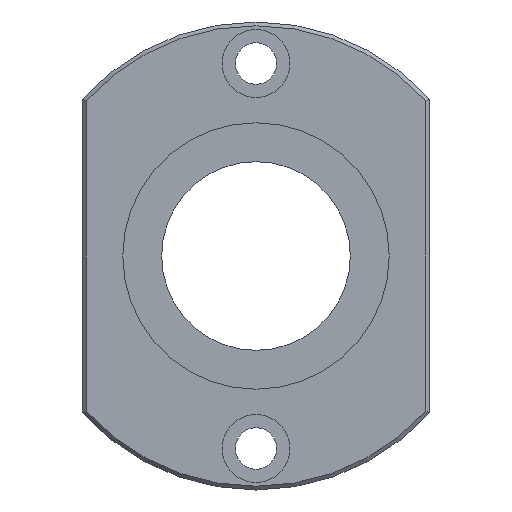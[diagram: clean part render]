
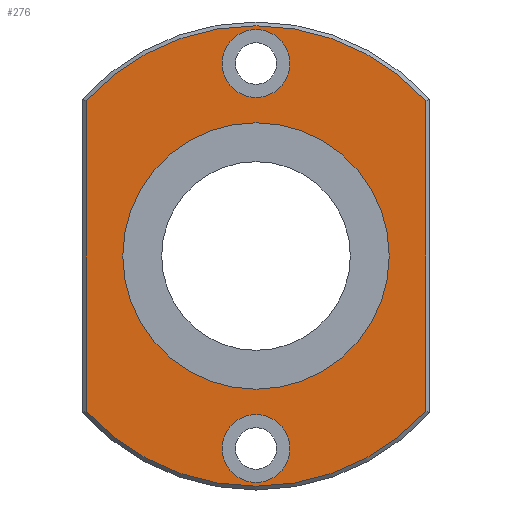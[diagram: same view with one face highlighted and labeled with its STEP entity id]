
A CAD part, left-side view. The second image highlights one B-rep face of the part: STEP entity #276.
In plain terms, the highlighted planar face has unit normal (-1, 0, 0).
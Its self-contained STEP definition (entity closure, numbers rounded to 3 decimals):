
#59=CARTESIAN_POINT('',(0.,22.5,-20.591));
#60=VERTEX_POINT('',#59);
#68=CARTESIAN_POINT('',(0.,22.5,20.591));
#69=VERTEX_POINT('',#68);
#70=CARTESIAN_POINT('',(0.,22.5,-20.591));
#71=DIRECTION('',(0.0,0.0,1.0));
#72=VECTOR('',#71,41.183);
#73=LINE('',#70,#72);
#74=EDGE_CURVE('',#60,#69,#73,.T.);
#101=CARTESIAN_POINT('',(0.,-22.5,20.591));
#102=VERTEX_POINT('',#101);
#103=CARTESIAN_POINT('',(0.,0.0,0.0));
#104=DIRECTION('',(1.0,0.0,0.0));
#105=DIRECTION('',(0.0,0.0,1.0));
#106=AXIS2_PLACEMENT_3D('',#103,#104,#105);
#107=CIRCLE('',#106,30.5);
#108=EDGE_CURVE('',#69,#102,#107,.T.);
#134=CARTESIAN_POINT('',(0.,-22.5,-20.591));
#135=VERTEX_POINT('',#134);
#136=CARTESIAN_POINT('',(0.,-22.5,20.591));
#137=DIRECTION('',(0.0,0.0,-1.0));
#138=VECTOR('',#137,41.183);
#139=LINE('',#136,#138);
#140=EDGE_CURVE('',#102,#135,#139,.T.);
#165=CARTESIAN_POINT('',(0.,0.0,0.0));
#166=DIRECTION('',(1.0,0.0,0.0));
#167=DIRECTION('',(0.0,0.0,-1.0));
#168=AXIS2_PLACEMENT_3D('',#165,#166,#167);
#169=CIRCLE('',#168,30.5);
#170=EDGE_CURVE('',#135,#60,#169,.T.);
#232=CARTESIAN_POINT('',(0.,0.0,18.825));
#233=DIRECTION('',(-1.0,0.0,0.0));
#234=DIRECTION('',(0.0,0.0,1.0));
#235=AXIS2_PLACEMENT_3D('',#232,#233,#234);
#236=PLANE('',#235);
#237=ORIENTED_EDGE('',*,*,#74,.F.);
#238=ORIENTED_EDGE('',*,*,#170,.F.);
#239=ORIENTED_EDGE('',*,*,#140,.F.);
#240=ORIENTED_EDGE('',*,*,#108,.F.);
#241=EDGE_LOOP('',(#237,#238,#239,#240));
#242=FACE_OUTER_BOUND('',#241,.T.);
#243=CARTESIAN_POINT('',(0.,0.0,17.65));
#244=VERTEX_POINT('',#243);
#245=CARTESIAN_POINT('',(0.,0.0,0.0));
#246=DIRECTION('',(-1.0,0.0,0.0));
#247=DIRECTION('',(0.0,0.0,1.0));
#248=AXIS2_PLACEMENT_3D('',#245,#246,#247);
#249=CIRCLE('',#248,17.65);
#250=EDGE_CURVE('',#244,#244,#249,.T.);
#251=ORIENTED_EDGE('',*,*,#250,.F.);
#252=EDGE_LOOP('',(#251));
#253=FACE_BOUND('',#252,.T.);
#254=CARTESIAN_POINT('',(0.0,4.5,-25.5));
#255=VERTEX_POINT('',#254);
#256=CARTESIAN_POINT('',(0.,0.,-25.5));
#257=DIRECTION('',(1.0,0.0,0.0));
#258=DIRECTION('',(0.0,1.0,0.0));
#259=AXIS2_PLACEMENT_3D('',#256,#257,#258);
#260=CIRCLE('',#259,4.5);
#261=EDGE_CURVE('',#255,#255,#260,.T.);
#262=ORIENTED_EDGE('',*,*,#261,.T.);
#263=EDGE_LOOP('',(#262));
#264=FACE_BOUND('',#263,.T.);
#265=CARTESIAN_POINT('',(0.0,4.5,25.5));
#266=VERTEX_POINT('',#265);
#267=CARTESIAN_POINT('',(0.,0.,25.5));
#268=DIRECTION('',(1.0,0.0,0.0));
#269=DIRECTION('',(0.0,1.0,0.0));
#270=AXIS2_PLACEMENT_3D('',#267,#268,#269);
#271=CIRCLE('',#270,4.5);
#272=EDGE_CURVE('',#266,#266,#271,.T.);
#273=ORIENTED_EDGE('',*,*,#272,.T.);
#274=EDGE_LOOP('',(#273));
#275=FACE_BOUND('',#274,.T.);
#276=ADVANCED_FACE('',(#242,#253,#264,#275),#236,.T.);
